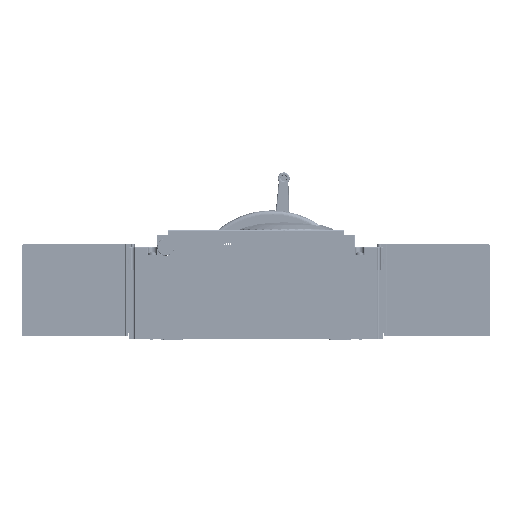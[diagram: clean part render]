
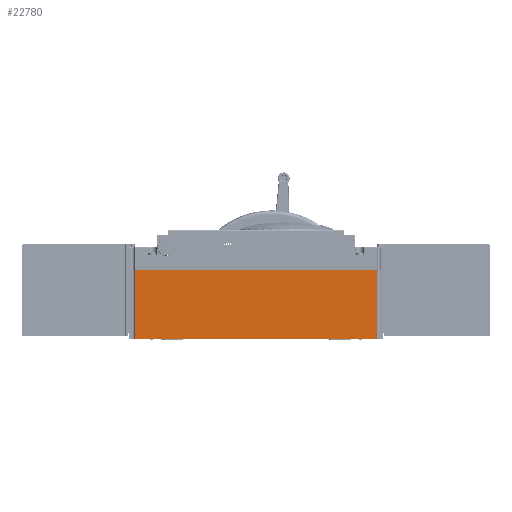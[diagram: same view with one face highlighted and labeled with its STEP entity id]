
A CAD part, front view. The second image highlights one B-rep face of the part: STEP entity #22780.
In plain terms, the highlighted planar face has unit normal (0, -1, 0).
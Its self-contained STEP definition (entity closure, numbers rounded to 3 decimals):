
#22780=ADVANCED_FACE('',(#40641),#29625,.T.);
#29625=PLANE('',#249606);
#40641=FACE_OUTER_BOUND('',#55358,.T.);
#55358=EDGE_LOOP('',(#126578,#126579,#126580,#126581));
#126578=ORIENTED_EDGE('',*,*,#183686,.T.);
#126579=ORIENTED_EDGE('',*,*,#184176,.T.);
#126580=ORIENTED_EDGE('',*,*,#182105,.T.);
#126581=ORIENTED_EDGE('',*,*,#184177,.F.);
#150952=VERTEX_POINT('',#387104);
#150953=VERTEX_POINT('',#387106);
#152306=VERTEX_POINT('',#390456);
#152307=VERTEX_POINT('',#390458);
#182105=EDGE_CURVE('',#150953,#150952,#203865,.T.);
#183686=EDGE_CURVE('',#152307,#152306,#205146,.T.);
#184176=EDGE_CURVE('',#152306,#150953,#205550,.T.);
#184177=EDGE_CURVE('',#152307,#150952,#205551,.T.);
#203865=LINE('',#387105,#224834);
#205146=LINE('',#390457,#226115);
#205550=LINE('',#391400,#226519);
#205551=LINE('',#391401,#226520);
#224834=VECTOR('',#311213,1.);
#226115=VECTOR('',#313408,1.);
#226519=VECTOR('',#314122,1.);
#226520=VECTOR('',#314123,1.);
#249606=AXIS2_PLACEMENT_3D('',#391402,#314124,#314125);
#311213=DIRECTION('',(1.,0.,0.));
#313408=DIRECTION('',(-1.,0.,0.));
#314122=DIRECTION('',(0.,0.,-1.));
#314123=DIRECTION('',(0.,0.,-1.));
#314124=DIRECTION('',(0.,-1.,0.));
#314125=DIRECTION('',(0.,0.,-1.));
#387104=CARTESIAN_POINT('',(250.75,0.,0.));
#387105=CARTESIAN_POINT('',(128.5,0.,0.));
#387106=CARTESIAN_POINT('',(6.25,0.,0.));
#390456=CARTESIAN_POINT('',(6.25,0.,70.));
#390457=CARTESIAN_POINT('',(128.5,0.,70.));
#390458=CARTESIAN_POINT('',(250.75,0.,70.));
#391400=CARTESIAN_POINT('',(6.25,0.,70.));
#391401=CARTESIAN_POINT('',(250.75,0.,70.));
#391402=CARTESIAN_POINT('',(128.5,0.,0.));
